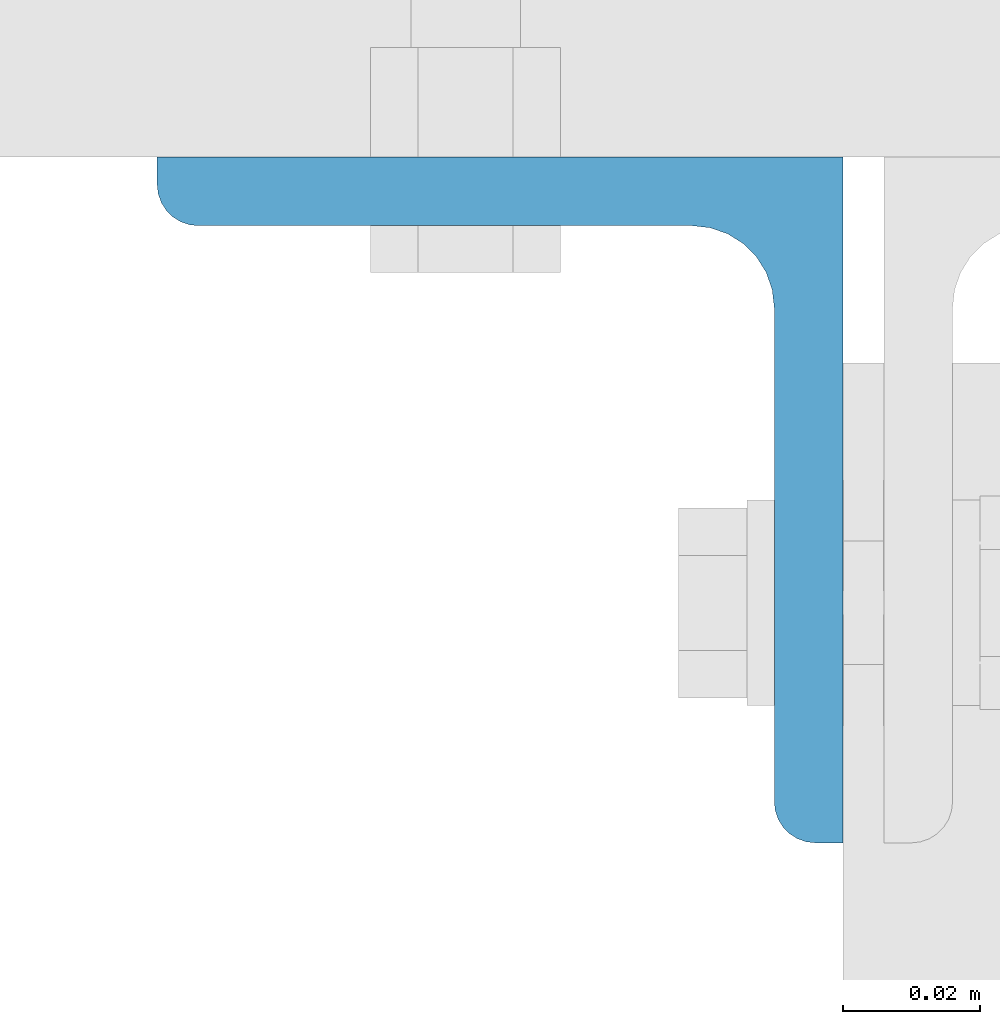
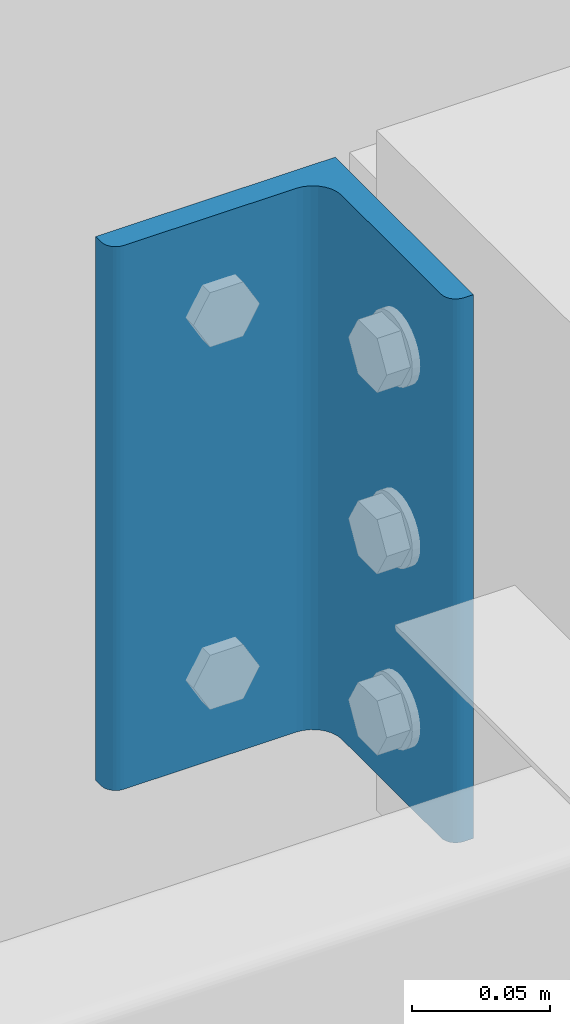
# One storey, part 21 of 123: 1 column, 1 element without a shape of its own.
"""IFC2X3 building model written with IfcOpenShell, lengths in millimetres."""

from ifc_helpers import new_model, si_unit, frame, origin_with_axes, origin_2d_with_axis, place, context, subcontext, project, spatial, l_section, extrude, material, type_object, element, aggregate, save


model = new_model("IFC2X3")

# Units and contexts
model_context = context("Model", 3, precision=1e-05, world=origin_with_axes())
body_context = subcontext(model_context, "Body", "Model", "MODEL_VIEW")
ifc_project = project(units=[si_unit("LENGTHUNIT", "METRE", prefix="MILLI"), si_unit("AREAUNIT", "SQUARE_METRE"), si_unit("VOLUMEUNIT", "CUBIC_METRE"), si_unit("MASSUNIT", "GRAM", prefix="KILO"), si_unit("TIMEUNIT", "SECOND"), si_unit("PLANEANGLEUNIT", "RADIAN"), si_unit("SOLIDANGLEUNIT", "STERADIAN"), si_unit("THERMODYNAMICTEMPERATUREUNIT", "DEGREE_CELSIUS"), si_unit("LUMINOUSINTENSITYUNIT", "LUMEN")], contexts=[model_context])

# Site, building, storey
site_placement = place(None, origin_with_axes())
site = spatial("IfcSite", under=ifc_project, at=site_placement, Name="Undefined", CompositionType="ELEMENT")
building_placement = place(site_placement, origin_with_axes())
building = spatial("IfcBuilding", under=site, at=building_placement, Name="Undefined", CompositionType="ELEMENT")
storey_placement = place(building_placement, origin_with_axes())
storey = spatial("IfcBuildingStorey", under=building, at=storey_placement, Name="Undefined", CompositionType="ELEMENT", Elevation=0.0)

# Assembly, column
assembly_placement = place(storey_placement, origin_with_axes())
assembly = element("IfcElementAssembly", 1, at=assembly_placement, inside=storey, Name="Steel Assembly", AssemblyPlace="NOTDEFINED", PredefinedType="RIGID_FRAME")
ifc_material = material(Name="STEEL/S235-E24")
column_type = type_object("IfcColumnType", Name="L100*10", PredefinedType="NOTDEFINED")
column_placement = place(assembly_placement, frame((24686.491600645, 15339.9999999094, 7970.00437164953), z_axis=(0.0, 0.0, 1.0), x_axis=(-1.0, 0.0, 0.0)))
column = element("IfcColumn", 2, at=column_placement, type_object=column_type, material=ifc_material, Name="ATTACHE", ObjectType="L100*10", context=body_context, shape_type="SweptSolid", body=[
    extrude(l_section(Depth=100.0, Width=100.0, Thickness=10.0, FilletRadius=12.0, EdgeRadius=6.0, at=origin_2d_with_axis()), frame((0.0, 0.0, 239.999999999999), z_axis=(0.0, 0.0, -1.0), x_axis=(0.0, 1.0, 0.0)), (0.0, 0.0, 1.0), 240.0),
])
aggregate(assembly, [column])

save(model, "model.ifc")
